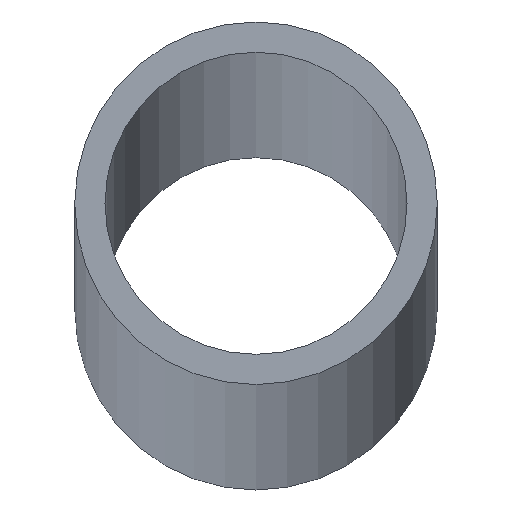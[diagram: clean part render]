
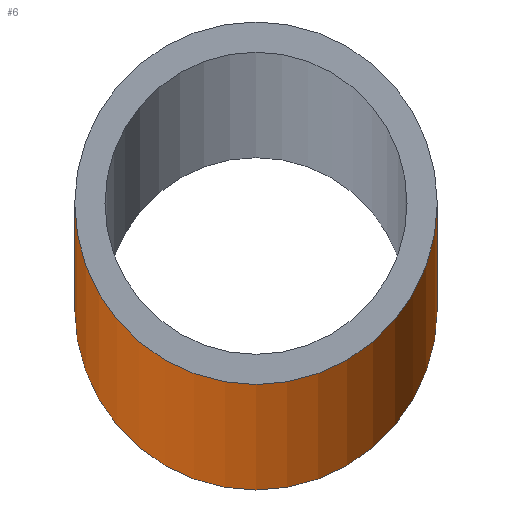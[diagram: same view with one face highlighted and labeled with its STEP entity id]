
A CAD part, top view. The second image highlights one B-rep face of the part: STEP entity #6.
In plain terms, the highlighted cylindrical face has radius 6 mm (diameter 12 mm), a partial arc.
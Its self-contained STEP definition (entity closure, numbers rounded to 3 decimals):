
#6 = ADVANCED_FACE ( 'NONE', ( #91 ), #31, .T. ) ;
#7 = ORIENTED_EDGE ( 'NONE', *, *, #107, .T. ) ;
#9 = DIRECTION ( 'NONE',  ( 1., 0., 0. ) ) ;
#11 = CARTESIAN_POINT ( 'NONE',  ( -6., 0., 0. ) ) ;
#24 = VERTEX_POINT ( 'NONE', #151 ) ;
#25 = LINE ( 'NONE', #136, #40 ) ;
#27 = DIRECTION ( 'NONE',  ( 0., 0., 1. ) ) ;
#31 = CYLINDRICAL_SURFACE ( 'NONE', #131, 6. ) ;
#32 = CARTESIAN_POINT ( 'NONE',  ( -6., 0., 2000. ) ) ;
#34 = VECTOR ( 'NONE', #189, 1000. ) ;
#37 = EDGE_CURVE ( 'NONE', #24, #207, #203, .T. ) ;
#40 = VECTOR ( 'NONE', #167, 1000. ) ;
#41 = CARTESIAN_POINT ( 'NONE',  ( 6., 0., 0. ) ) ;
#55 = CARTESIAN_POINT ( 'NONE',  ( 0., 0., 0. ) ) ;
#62 = CIRCLE ( 'NONE', #78, 6. ) ;
#78 = AXIS2_PLACEMENT_3D ( 'NONE', #55, #193, #9 ) ;
#82 = ORIENTED_EDGE ( 'NONE', *, *, #37, .T. ) ;
#91 = FACE_OUTER_BOUND ( 'NONE', #118, .T. ) ;
#100 = DIRECTION ( 'NONE',  ( -1., 0., 0. ) ) ;
#102 = DIRECTION ( 'NONE',  ( 0., 0., -1. ) ) ;
#106 = CIRCLE ( 'NONE', #178, 6. ) ;
#107 = EDGE_CURVE ( 'NONE', #207, #148, #62, .T. ) ;
#118 = EDGE_LOOP ( 'NONE', ( #195, #153, #82, #7 ) ) ;
#122 = VERTEX_POINT ( 'NONE', #180 ) ;
#131 = AXIS2_PLACEMENT_3D ( 'NONE', #171, #102, #100 ) ;
#136 = CARTESIAN_POINT ( 'NONE',  ( 6., 0., 2000. ) ) ;
#148 = VERTEX_POINT ( 'NONE', #41 ) ;
#151 = CARTESIAN_POINT ( 'NONE',  ( -6., 0., 2000. ) ) ;
#153 = ORIENTED_EDGE ( 'NONE', *, *, #165, .F. ) ;
#162 = DIRECTION ( 'NONE',  ( 1., 0., 0. ) ) ;
#165 = EDGE_CURVE ( 'NONE', #24, #122, #106, .T. ) ;
#167 = DIRECTION ( 'NONE',  ( 0., 0., -1. ) ) ;
#168 = CARTESIAN_POINT ( 'NONE',  ( 0., 0., 2000. ) ) ;
#171 = CARTESIAN_POINT ( 'NONE',  ( 0., 0., 2000. ) ) ;
#178 = AXIS2_PLACEMENT_3D ( 'NONE', #168, #27, #162 ) ;
#180 = CARTESIAN_POINT ( 'NONE',  ( 6., 0., 2000. ) ) ;
#189 = DIRECTION ( 'NONE',  ( 0., 0., -1. ) ) ;
#193 = DIRECTION ( 'NONE',  ( 0., 0., 1. ) ) ;
#195 = ORIENTED_EDGE ( 'NONE', *, *, #200, .F. ) ;
#200 = EDGE_CURVE ( 'NONE', #122, #148, #25, .T. ) ;
#203 = LINE ( 'NONE', #32, #34 ) ;
#207 = VERTEX_POINT ( 'NONE', #11 ) ;
